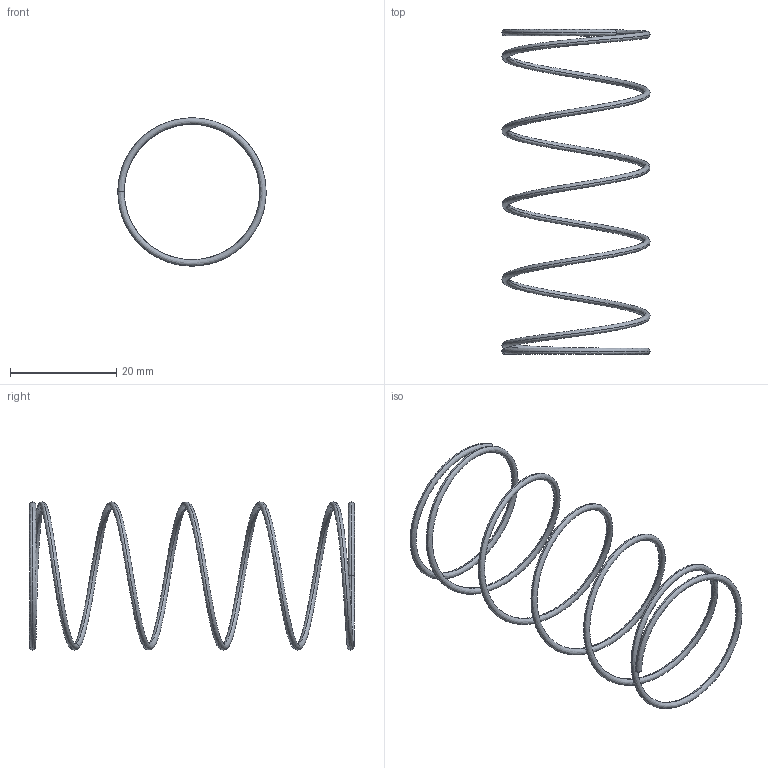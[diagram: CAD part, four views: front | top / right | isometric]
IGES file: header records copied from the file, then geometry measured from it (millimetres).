
Global section: file name: SPK25060.ipt; native system: Autodesk Inventor 2021; preprocessor: unknown; author: SM; date: 20211217.125957; units: millimetre
Bounding box: 27.9 x 61.2 x 27.9 mm (x, y, z)
Volume: 601.2 mm3; surface area: 2014.6 mm2
Topology: 1 solids, 1 shells, 4 faces, 12 edges, 8 vertices
Faces by surface type: bspline 2, plane 2
